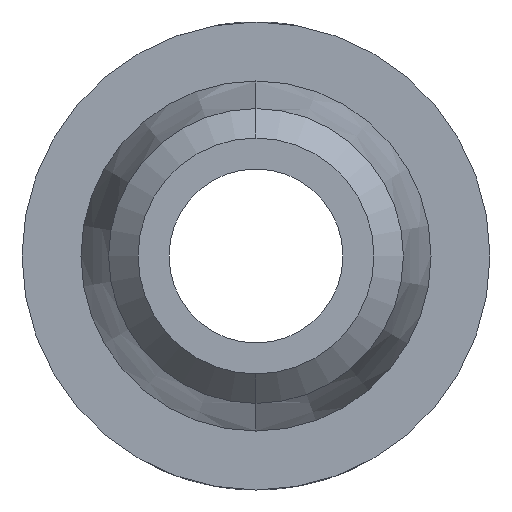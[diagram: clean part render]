
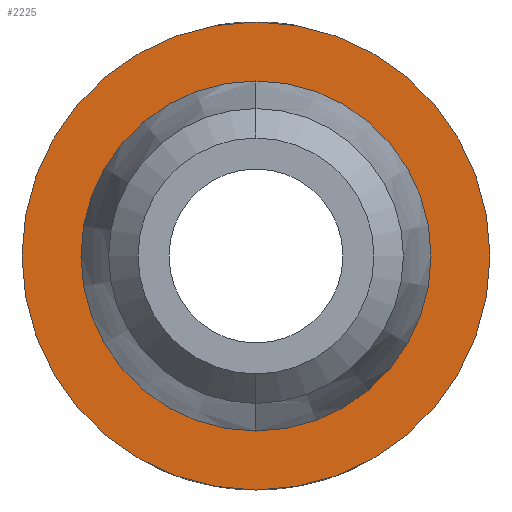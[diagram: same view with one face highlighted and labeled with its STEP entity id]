
A CAD part, left-side view. The second image highlights one B-rep face of the part: STEP entity #2225.
In plain terms, the highlighted planar face has unit normal (1, 0, 0).
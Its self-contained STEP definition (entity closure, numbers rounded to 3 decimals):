
#38=PLANE('',#2547);
#63=FACE_BOUND('',#205,.T.);
#116=FACE_OUTER_BOUND('',#204,.T.);
#204=EDGE_LOOP('',(#1827));
#205=EDGE_LOOP('',(#1828));
#323=CIRCLE('',#2548,3.175);
#324=CIRCLE('',#2549,2.375);
#1013=VERTEX_POINT('',#4056);
#1014=VERTEX_POINT('',#4058);
#1420=EDGE_CURVE('',#1013,#1013,#323,.T.);
#1421=EDGE_CURVE('',#1014,#1014,#324,.T.);
#1827=ORIENTED_EDGE('',*,*,#1420,.T.);
#1828=ORIENTED_EDGE('',*,*,#1421,.T.);
#2225=ADVANCED_FACE('',(#116,#63),#38,.T.);
#2547=AXIS2_PLACEMENT_3D('',#4055,#2841,#2842);
#2548=AXIS2_PLACEMENT_3D('',#4057,#2843,#2844);
#2549=AXIS2_PLACEMENT_3D('',#4059,#2845,#2846);
#2841=DIRECTION('center_axis',(1.,0.,0.));
#2842=DIRECTION('ref_axis',(0.,0.,-1.));
#2843=DIRECTION('center_axis',(1.,0.,0.));
#2844=DIRECTION('ref_axis',(0.,0.,-1.));
#2845=DIRECTION('center_axis',(-1.,0.,0.));
#2846=DIRECTION('ref_axis',(0.,0.,
-1.));
#4055=CARTESIAN_POINT('Origin',(-4.5,-3.213,0.));
#4056=CARTESIAN_POINT('',(-4.5,0.,3.175));
#4057=CARTESIAN_POINT('Origin',(-4.5,0.,0.));
#4058=CARTESIAN_POINT('',(-4.5,0.,2.375));
#4059=CARTESIAN_POINT('Origin',(-4.5,0.,0.));
